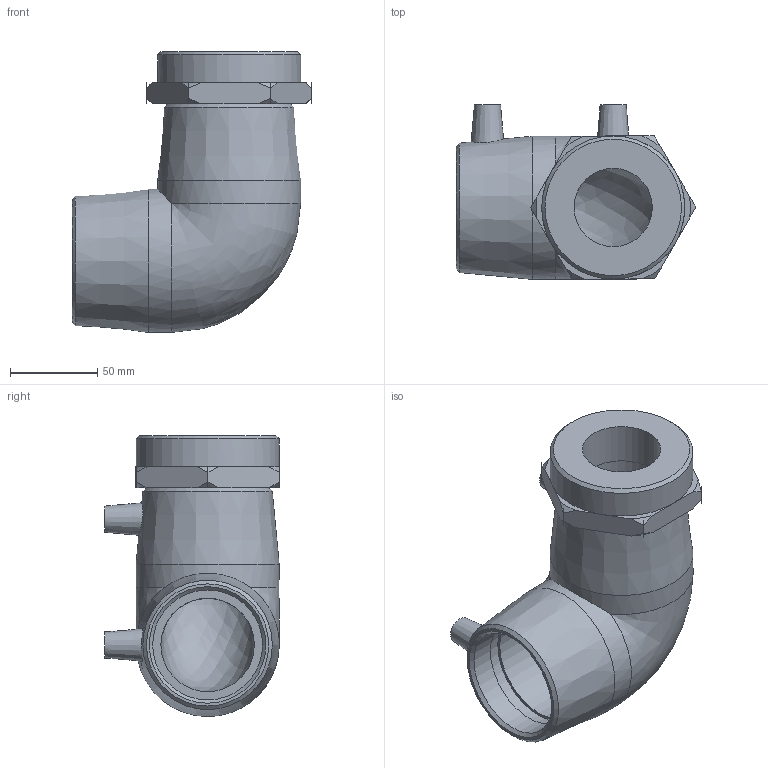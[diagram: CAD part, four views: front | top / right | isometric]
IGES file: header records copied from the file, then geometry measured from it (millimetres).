
Global section: file name: 493504063015.ipt; native system: Autodesk Inventor 2015; preprocessor: unknown; author: KIM; date: 20200202.123505; units: millimetre
Bounding box: 137.34 x 100.11 x 161 mm (x, y, z)
Volume: 555794.8 mm3; surface area: 99184.7 mm2
Topology: 1 solids, 2 shells, 88 faces, 227 edges, 150 vertices
Faces by surface type: plane 39, revolution 22, cone 19, cylinder 7, bspline 1
Full cylindrical faces by diameter (mm): 4 x2, 63 x2, 82 x3
